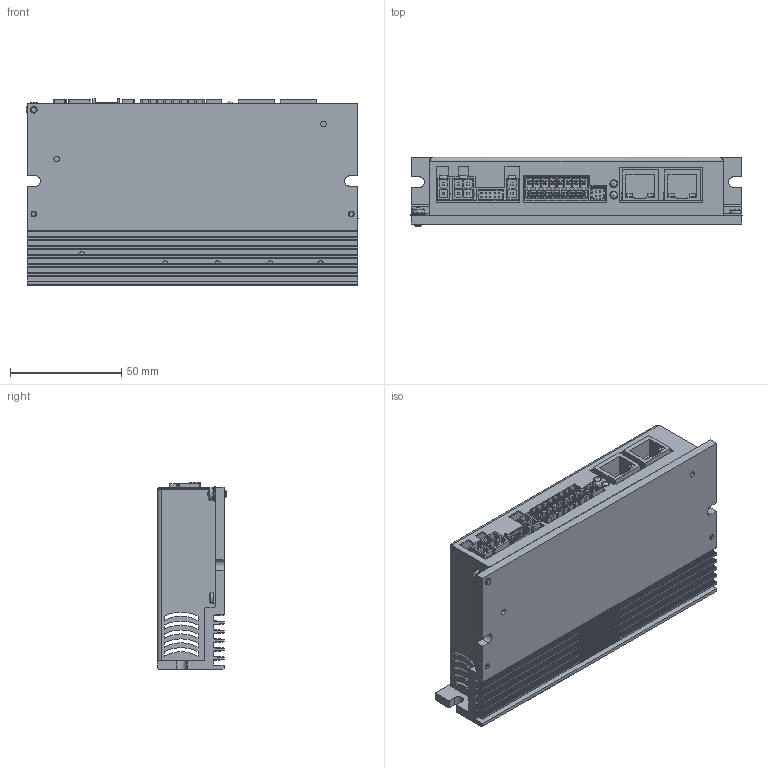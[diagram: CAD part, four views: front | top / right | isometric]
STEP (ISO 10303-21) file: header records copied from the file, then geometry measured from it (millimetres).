
FILE_DESCRIPTION(/* description */ ('Unknown'),/* implementation_level */ '2;1');
FILE_NAME(/* name */ 'SW4A3070H241-00',/* time_stamp */ '2025-01-22T09:46:09+01:00',/* author */ ('Unknown'),/* organization */ ('Unknown'),/* preprocessor_version */ 'ST-DEVELOPER v16.7',/* originating_system */ 'Solid Edge',/* authorisation */ 'Unknown');
FILE_SCHEMA (('AUTOMOTIVE_DESIGN {1 0 10303 214 3 1 1}'));
Products named in the file (35): SW4A3070 con EMD00_Solid Edge; estruso-01_imd03_emd00; ad_00907-00_imd03_00; EMD00-03_solo connettori_2025-01-22_1; Board; Open CASCADE STEP translator 7.5 1.1.1; CN6; 878330431; Open CASCADE STEP translator 7.5 1.2.1.1; Open CASCADE STEP translator 7.5 1.2.1.2; CN3; 1786895; dmc_1.5-8-g1-3.5; CN1L; Molex 039300020; Open CASCADE STEP translator 7.5 1.4.1.1; Open CASCADE STEP translator 7.5 1.4.1.2; CN1; CN2; Molex 039300040; Open CASCADE STEP translator 7.5 1.6.1.1; Open CASCADE STEP translator 7.5 1.6.1.2; CN4; DF11-10DP-2DS; DF11-10DP-2DSÈª; CN5A; J0011D01BNL; CN5B; GL500; 5151061f; scatola_sw4_emd00_00; tcc_M2e5x04; Piana_M3; dentellata_M3; tcc_M3x06
Assembly tree (37 placements, depth 5):
  SW4A3070 con EMD00_Solid Edge
    estruso-01_imd03_emd00
    ad_00907-00_imd03_00
    EMD00-03_solo connettori_2025-01-22_1
      Board
        Open CASCADE STEP translator 7.5 1.1.1
      CN6
        878330431
          Open CASCADE STEP translator 7.5 1.2.1.1
          Open CASCADE STEP translator 7.5 1.2.1.2
      CN3
        1786895
          dmc_1.5-8-g1-3.5
      CN1L
        Molex 039300020
          Open CASCADE STEP translator 7.5 1.4.1.1
          Open CASCADE STEP translator 7.5 1.4.1.2
      CN1
        Molex 039300020
          Open CASCADE STEP translator 7.5 1.4.1.1
          Open CASCADE STEP translator 7.5 1.4.1.2
      CN2
        Molex 039300040
          Open CASCADE STEP translator 7.5 1.6.1.1
          Open CASCADE STEP translator 7.5 1.6.1.2
      CN4
        DF11-10DP-2DS
          DF11-10DP-2DSÈª
      CN5A
        J0011D01BNL
      CN5B
        J0011D01BNL
      GL500
        5151061f
    scatola_sw4_emd00_00
    tcc_M2e5x04  x2
    Piana_M3
    dentellata_M3
    tcc_M3x06
Bounding box: 149.29 x 31.14 x 84.05 mm (x, y, z)
Volume: 105984 mm3; surface area: 118904.5 mm2
Topology: 17 solids, 22 shells, 3630 faces, 10095 edges, 6588 vertices
Faces by surface type: plane 2485, cylinder 819, cone 151, bspline 115, sphere 38, torus 22
Full cylindrical faces by diameter (mm): 0.457 x1, 0.762 x9, 0.888 x16, 0.9 x14, 1.016 x30, 1.27 x6, 1.397 x1, 1.4 x18, 1.53 x1, 1.55 x1, 1.6 x4, 1.778 x4, 1.8 x8, 2.5 x14, 2.7 x6, 2.75 x2, 3 x7, 3.048 x2, 3.2 x8, 3.4 x1, 3.6 x2, 5 x2, 6 x1, 7 x3
Entity records: 123344 total; most frequent: CARTESIAN_POINT 24313, ORIENTED_EDGE 17936, DIRECTION 16999, EDGE_CURVE 9004, LINE 6539, VECTOR 6539, VERTEX_POINT 5984, AXIS2_PLACEMENT_3D 5230
